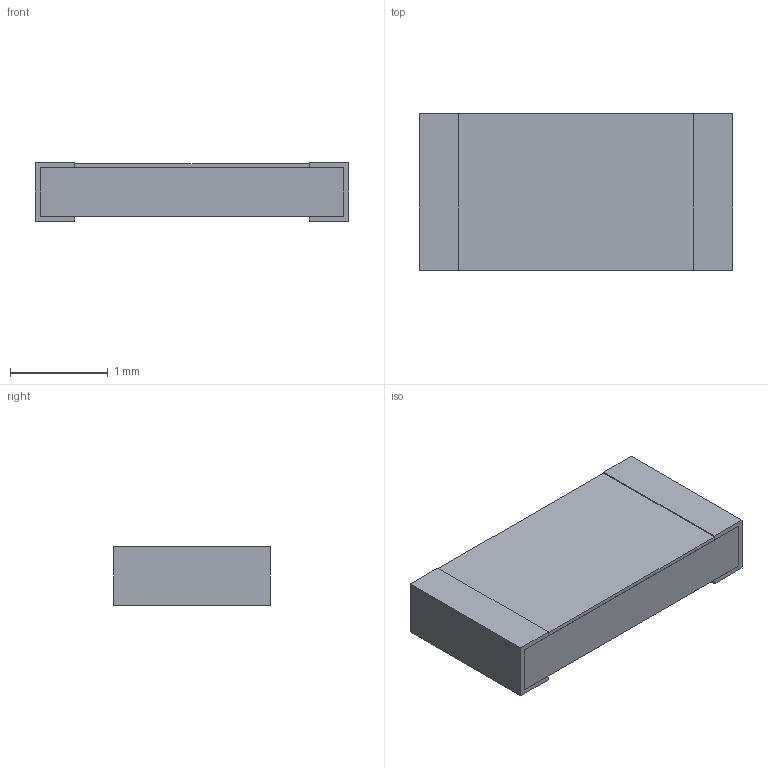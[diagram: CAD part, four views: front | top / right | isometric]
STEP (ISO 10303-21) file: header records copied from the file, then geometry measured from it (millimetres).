
FILE_DESCRIPTION(('STEP AP203'), '1');
FILE_NAME('Ð1-153 1206', '', ('UNSPECIFIED'), ('UNSPECIFIED'), 'ASCON STEP Converter 1.6', 'ASCON Math Kernel', '');
FILE_SCHEMA(('CONFIG_CONTROL_DESIGN'));
Length unit declared in the file: millimetre
Bounding box: 3.2 x 1.6 x 0.6 mm (x, y, z)
Volume: 2.8 mm3; surface area: 31.5 mm2
Topology: 4 solids, 4 shells, 32 faces, 72 edges, 48 vertices
Faces by surface type: plane 32
Entity records: 1194 total; most frequent: CARTESIAN_POINT 153, ORIENTED_EDGE 144, DIRECTION 138, EDGE_CURVE 72, LINE 72, VECTOR 72, VERTEX_POINT 48, COLOUR_RGB 36
